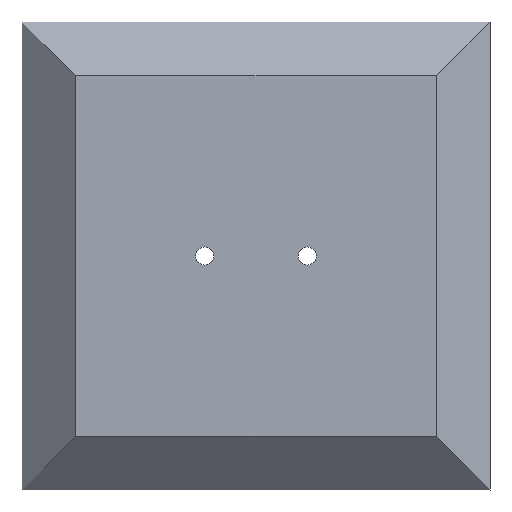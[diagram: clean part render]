
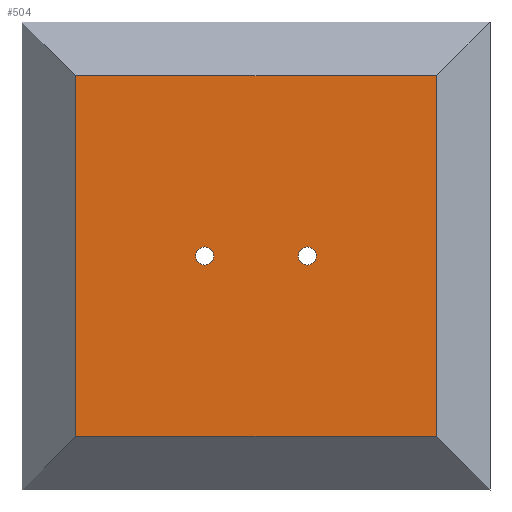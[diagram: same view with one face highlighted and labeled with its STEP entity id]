
A CAD part, front view. The second image highlights one B-rep face of the part: STEP entity #504.
In plain terms, the highlighted planar face has unit normal (0, -1, 0) as drawn and (0, 1, 0) by its records, which use the part's own axes.
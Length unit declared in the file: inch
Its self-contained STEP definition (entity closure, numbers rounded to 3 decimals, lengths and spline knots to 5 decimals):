
#1 = AXIS2_PLACEMENT_3D ( 'NONE', #153, #53, #106 ) ;
#14 = VECTOR ( 'NONE', #564, 39.37008 ) ;
#32 = EDGE_LOOP ( 'NONE', ( #176, #86 ) ) ;
#34 = DIRECTION ( 'NONE',  ( 0., 0., 1. ) ) ;
#42 = EDGE_CURVE ( 'NONE', #290, #116, #97, .T. ) ;
#44 = VECTOR ( 'NONE', #34, 39.37008 ) ;
#48 = VERTEX_POINT ( 'NONE', #362 ) ;
#49 = EDGE_CURVE ( 'NONE', #296, #192, #348, .T. ) ;
#53 = DIRECTION ( 'NONE',  ( 0., -1., 0. ) ) ;
#65 = CARTESIAN_POINT ( 'NONE',  ( 6.625, 0.475, -9.25 ) ) ;
#69 = AXIS2_PLACEMENT_3D ( 'NONE', #555, #358, #204 ) ;
#72 = LINE ( 'NONE', #112, #591 ) ;
#83 = LINE ( 'NONE', #93, #44 ) ;
#86 = ORIENTED_EDGE ( 'NONE', *, *, #526, .F. ) ;
#93 = CARTESIAN_POINT ( 'NONE',  ( 0., 0.475, 0. ) ) ;
#97 = CIRCLE ( 'NONE', #69, 0.465 ) ;
#99 = FACE_OUTER_BOUND ( 'NONE', #184, .T. ) ;
#106 = DIRECTION ( 'NONE',  ( 0., 0., -1. ) ) ;
#112 = CARTESIAN_POINT ( 'NONE',  ( 18.5, 0.475, 0. ) ) ;
#116 = VERTEX_POINT ( 'NONE', #639 ) ;
#124 = CIRCLE ( 'NONE', #172, 0.465 ) ;
#126 = CARTESIAN_POINT ( 'NONE',  ( 0., 0.475, -18.5 ) ) ;
#128 = CARTESIAN_POINT ( 'NONE',  ( 6.625, 0.475, -8.785 ) ) ;
#148 = VERTEX_POINT ( 'NONE', #414 ) ;
#153 = CARTESIAN_POINT ( 'NONE',  ( 0., 0.475, 0. ) ) ;
#154 = CARTESIAN_POINT ( 'NONE',  ( 0., 0.475, -18.5 ) ) ;
#155 = CARTESIAN_POINT ( 'NONE',  ( 11.875, 0.475, -9.25 ) ) ;
#161 = AXIS2_PLACEMENT_3D ( 'NONE', #65, #349, #595 ) ;
#163 = EDGE_CURVE ( 'NONE', #582, #48, #468, .T. ) ;
#164 = DIRECTION ( 'NONE',  ( 0., 0., -1. ) ) ;
#172 = AXIS2_PLACEMENT_3D ( 'NONE', #389, #380, #487 ) ;
#176 = ORIENTED_EDGE ( 'NONE', *, *, #313, .F. ) ;
#184 = EDGE_LOOP ( 'NONE', ( #194, #371, #587, #335 ) ) ;
#192 = VERTEX_POINT ( 'NONE', #126 ) ;
#194 = ORIENTED_EDGE ( 'NONE', *, *, #359, .T. ) ;
#204 = DIRECTION ( 'NONE',  ( 0., 0., -1. ) ) ;
#236 = CIRCLE ( 'NONE', #513, 0.465 ) ;
#256 = DIRECTION ( 'NONE',  ( 0., 1., 0. ) ) ;
#271 = EDGE_LOOP ( 'NONE', ( #537, #638 ) ) ;
#290 = VERTEX_POINT ( 'NONE', #128 ) ;
#296 = VERTEX_POINT ( 'NONE', #375 ) ;
#304 = FACE_BOUND ( 'NONE', #271, .T. ) ;
#313 = EDGE_CURVE ( 'NONE', #148, #597, #124, .T. ) ;
#335 = ORIENTED_EDGE ( 'NONE', *, *, #49, .T. ) ;
#346 = FACE_BOUND ( 'NONE', #32, .T. ) ;
#348 = LINE ( 'NONE', #154, #514 ) ;
#349 = DIRECTION ( 'NONE',  ( 0., 1., 0. ) ) ;
#358 = DIRECTION ( 'NONE',  ( 0., 1., 0. ) ) ;
#359 = EDGE_CURVE ( 'NONE', #192, #582, #83, .T. ) ;
#362 = CARTESIAN_POINT ( 'NONE',  ( 18.5, 0.475, 0. ) ) ;
#371 = ORIENTED_EDGE ( 'NONE', *, *, #163, .T. ) ;
#375 = CARTESIAN_POINT ( 'NONE',  ( 18.5, 0.475, -18.5 ) ) ;
#380 = DIRECTION ( 'NONE',  ( 0., 1., 0. ) ) ;
#389 = CARTESIAN_POINT ( 'NONE',  ( 11.875, 0.475, -9.25 ) ) ;
#397 = CARTESIAN_POINT ( 'NONE',  ( 11.875, 0.475, -9.715 ) ) ;
#411 = CARTESIAN_POINT ( 'NONE',  ( 0., 0.475, 0. ) ) ;
#414 = CARTESIAN_POINT ( 'NONE',  ( 11.875, 0.475, -8.785 ) ) ;
#456 = DIRECTION ( 'NONE',  ( 0., 0., 1. ) ) ;
#468 = LINE ( 'NONE', #470, #14 ) ;
#470 = CARTESIAN_POINT ( 'NONE',  ( 0., 0.475, 0. ) ) ;
#475 = EDGE_CURVE ( 'NONE', #116, #290, #611, .T. ) ;
#487 = DIRECTION ( 'NONE',  ( 0., 0., 1. ) ) ;
#504 = ADVANCED_FACE ( 'NONE', ( #346, #304, #99 ), #509, .F. ) ;
#506 = DIRECTION ( 'NONE',  ( -1., 0., 0. ) ) ;
#509 = PLANE ( 'NONE',  #1 ) ;
#513 = AXIS2_PLACEMENT_3D ( 'NONE', #155, #256, #456 ) ;
#514 = VECTOR ( 'NONE', #506, 39.37008 ) ;
#526 = EDGE_CURVE ( 'NONE', #597, #148, #236, .T. ) ;
#537 = ORIENTED_EDGE ( 'NONE', *, *, #42, .F. ) ;
#555 = CARTESIAN_POINT ( 'NONE',  ( 6.625, 0.475, -9.25 ) ) ;
#564 = DIRECTION ( 'NONE',  ( 1., 0., 0. ) ) ;
#570 = EDGE_CURVE ( 'NONE', #48, #296, #72, .T. ) ;
#582 = VERTEX_POINT ( 'NONE', #411 ) ;
#587 = ORIENTED_EDGE ( 'NONE', *, *, #570, .T. ) ;
#591 = VECTOR ( 'NONE', #164, 39.37008 ) ;
#595 = DIRECTION ( 'NONE',  ( 0., 0., -1. ) ) ;
#597 = VERTEX_POINT ( 'NONE', #397 ) ;
#611 = CIRCLE ( 'NONE', #161, 0.465 ) ;
#638 = ORIENTED_EDGE ( 'NONE', *, *, #475, .F. ) ;
#639 = CARTESIAN_POINT ( 'NONE',  ( 6.625, 0.475, -9.715 ) ) ;
